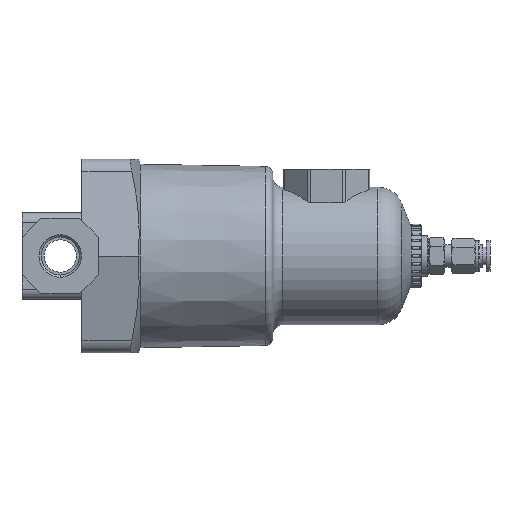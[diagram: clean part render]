
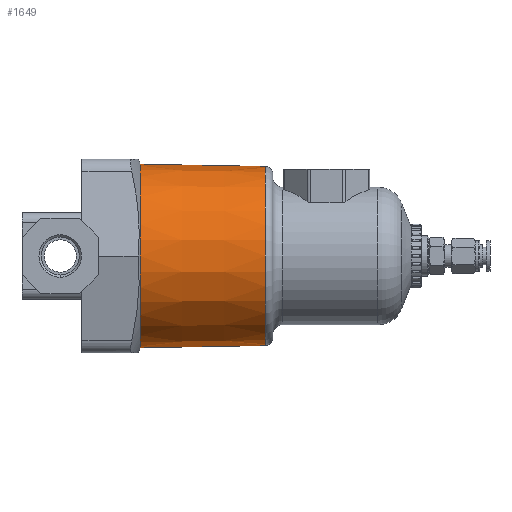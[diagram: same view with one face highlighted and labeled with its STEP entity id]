
A CAD part, left-side view. The second image highlights one B-rep face of the part: STEP entity #1649.
In plain terms, the highlighted conical face has half-angle 0.99 degrees and reference radius 36 mm.
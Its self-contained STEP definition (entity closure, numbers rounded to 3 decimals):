
#116 = CIRCLE ( 'NONE', #9473, 36. ) ;
#357 = CARTESIAN_POINT ( 'NONE',  ( 0., -31.4, 36. ) ) ;
#514 = VERTEX_POINT ( 'NONE', #3758 ) ;
#660 = FACE_OUTER_BOUND ( 'NONE', #8506, .T. ) ;
#922 = LINE ( 'NONE', #1821, #4593 ) ;
#968 = CARTESIAN_POINT ( 'NONE',  ( 0., -80.552, -35.151 ) ) ;
#1187 = EDGE_CURVE ( 'NONE', #8996, #11740, #922, .T. ) ;
#1649 = ADVANCED_FACE ( 'NONE', ( #660 ), #9782, .T. ) ;
#1771 = DIRECTION ( 'NONE',  ( 0., 0., -1. ) ) ;
#1821 = CARTESIAN_POINT ( 'NONE',  ( 0., -31.4, -36. ) ) ;
#1839 = DIRECTION ( 'NONE',  ( 0., -1., 0. ) ) ;
#2411 = CIRCLE ( 'NONE', #3936, 35.151 ) ;
#2419 = ORIENTED_EDGE ( 'NONE', *, *, #3851, .T. ) ;
#2555 = CARTESIAN_POINT ( 'NONE',  ( 0., -31.4, 36. ) ) ;
#2939 = ORIENTED_EDGE ( 'NONE', *, *, #9703, .T. ) ;
#3045 = LINE ( 'NONE', #357, #7268 ) ;
#3368 = ORIENTED_EDGE ( 'NONE', *, *, #10981, .F. ) ;
#3758 = CARTESIAN_POINT ( 'NONE',  ( 0., -80.552, 35.151 ) ) ;
#3851 = EDGE_CURVE ( 'NONE', #514, #5882, #3045, .T. ) ;
#3936 = AXIS2_PLACEMENT_3D ( 'NONE', #8940, #6433, #1771 ) ;
#4593 = VECTOR ( 'NONE', #5475, 1000. ) ;
#5399 = AXIS2_PLACEMENT_3D ( 'NONE', #11620, #11440, #10533 ) ;
#5475 = DIRECTION ( 'NONE',  ( 0., 1., -0.017 ) ) ;
#5882 = VERTEX_POINT ( 'NONE', #2555 ) ;
#6433 = DIRECTION ( 'NONE',  ( 0., -1., 0. ) ) ;
#6447 = CARTESIAN_POINT ( 'NONE',  ( 0., -31.4, -36. ) ) ;
#7225 = DIRECTION ( 'NONE',  ( 0., 0., -1. ) ) ;
#7268 = VECTOR ( 'NONE', #7655, 1000. ) ;
#7655 = DIRECTION ( 'NONE',  ( 0., 1., 0.017 ) ) ;
#8506 = EDGE_LOOP ( 'NONE', ( #11702, #3368, #2419, #2939 ) ) ;
#8940 = CARTESIAN_POINT ( 'NONE',  ( 0., -80.552, 0. ) ) ;
#8996 = VERTEX_POINT ( 'NONE', #968 ) ;
#9473 = AXIS2_PLACEMENT_3D ( 'NONE', #10026, #1839, #7225 ) ;
#9703 = EDGE_CURVE ( 'NONE', #5882, #11740, #116, .T. ) ;
#9782 = CONICAL_SURFACE ( 'NONE', #5399, 36., 0.017 ) ;
#10026 = CARTESIAN_POINT ( 'NONE',  ( 0., -31.4, 0. ) ) ;
#10533 = DIRECTION ( 'NONE',  ( 0., 0., 1. ) ) ;
#10981 = EDGE_CURVE ( 'NONE', #514, #8996, #2411, .T. ) ;
#11440 = DIRECTION ( 'NONE',  ( 0., 1., 0. ) ) ;
#11620 = CARTESIAN_POINT ( 'NONE',  ( 0., -31.4, 0. ) ) ;
#11702 = ORIENTED_EDGE ( 'NONE', *, *, #1187, .F. ) ;
#11740 = VERTEX_POINT ( 'NONE', #6447 ) ;
